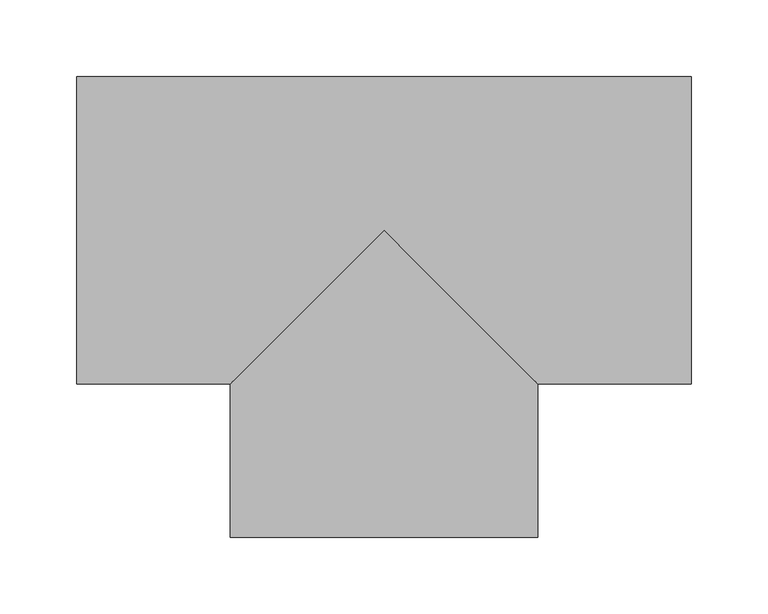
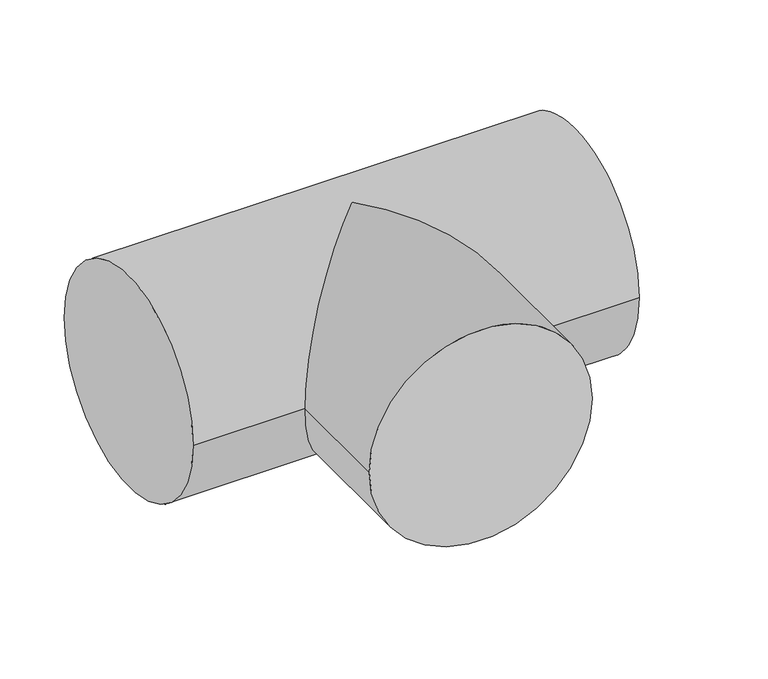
"""IFC4 building model written with IfcOpenShell, lengths in millimetres: duct fitting geometry, magicirc_tee_centric_90_001 : magicirc_tee_centric_90_001."""

from ifc_helpers import new_model, si_unit, frame, origin, place, context, project, spatial, circle_curve, ellipse_curve, source, transform, mapped, element, save
from ifc_brep_helpers import plane_surface, cylinder_surface, advanced_brep


def duct_fitting_c76679f8(model_context):
    return source(origin(), model_context, "Body", "AdvancedBrep", [
        advanced_brep(
        [(-200.0, -100.0, 0.0), (-200.0, 100.0, 0.0), (200.0, -100.0, 0.0), (200.0, 100.0, 0.0), (-100.0, -100.0, 0.0), (0.0, 0.0, 100.0), (100.0, -100.0, 0.0), (0.0, 0.0, -100.0), (-100.0, -200.0, 0.0), (100.0, -200.0, 0.0)],
        [
            (0, 1, circle_curve(frame((-200.0, 0.0, 0.0), z_axis=(-1.0, 0.0, 0.0), x_axis=(0.0, 1.0, 0.0)), 100.0)),
            (1, 0, circle_curve(frame((-200.0, 0.0, 0.0), z_axis=(-1.0, 0.0, 0.0), x_axis=(0.0, 1.0, 0.0)), 100.0)),
            (2, 3, circle_curve(frame((200.0, 0.0, 0.0), z_axis=(1.0, 0.0, 0.0), x_axis=(0.0, 1.0, 0.0)), 100.0)),
            (3, 2, circle_curve(frame((200.0, 0.0, 0.0), z_axis=(1.0, 0.0, 0.0), x_axis=(0.0, 1.0, 0.0)), 100.0)),
            (0, 4),
            (4, 5, ellipse_curve(frame((0.0, 0.0, 0.0), z_axis=(-0.7071067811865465, 0.7071067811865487, 0.0), x_axis=(-0.7071067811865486, -0.7071067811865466, 0.0)), 141.4213562, 100.0)),
            (5, 6, ellipse_curve(frame((0.0, 0.0, 0.0), z_axis=(0.7071067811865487, 0.7071067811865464, 0.0), x_axis=(-0.7071067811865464, 0.7071067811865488, 0.0)), 141.4213562, 100.0)),
            (6, 2),
            (3, 1),
            (6, 7, ellipse_curve(frame((0.0, 0.0, 0.0), z_axis=(0.7071067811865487, 0.7071067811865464, 0.0), x_axis=(-0.7071067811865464, 0.7071067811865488, 0.0)), 141.4213562, 100.0)),
            (7, 4, ellipse_curve(frame((0.0, 0.0, 0.0), z_axis=(-0.7071067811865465, 0.7071067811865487, 0.0), x_axis=(-0.7071067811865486, -0.7071067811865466, 0.0)), 141.4213562, 100.0)),
            (8, 9, circle_curve(frame((0.0, -200.0, 0.0), z_axis=(0.0, -1.0, 0.0), x_axis=(1.0, 0.0, 0.0)), 100.0)),
            (9, 8, circle_curve(frame((0.0, -200.0, 0.0), z_axis=(0.0, -1.0, 0.0), x_axis=(1.0, 0.0, 0.0)), 100.0)),
            (9, 6),
            (4, 8),
        ],
        [
            plane_surface(frame((-200.0, 0.0, 0.0), z_axis=(-1.0, 0.0, 0.0), x_axis=(0.0, 0.0, 1.0))),
            plane_surface(frame((200.0, 0.0, 0.0), z_axis=(1.0, 0.0, 0.0), x_axis=(0.0, 0.0, 1.0))),
            cylinder_surface(frame((-200.0, 0.0, 0.0), z_axis=(-1.0, 0.0, 0.0), x_axis=(0.0, 1.0, 0.0)), 100.0),
            plane_surface(frame((0.0, -200.0, 0.0), z_axis=(0.0, -1.0, 0.0), x_axis=(0.0, 0.0, 1.0))),
            cylinder_surface(frame((0.0, 0.0, 0.0), z_axis=(0.0, 1.0, 0.0), x_axis=(1.0, 0.0, 0.0)), 100.0),
        ],
        [
            (0, [[1, 2]]),
            (1, [[3, 4]]),
            (2, [[-1, 5, 6, 7, 8, -4, 9]]),
            (2, [[-2, -9, -3, -8, 10, 11, -5]]),
            (3, [[12, 13]]),
            (4, [[-13, 14, -7, -6, 15]]),
            (4, [[-12, -15, -11, -10, -14]]),
        ],
    ),
    ])


if __name__ == "__main__":
    model = new_model("IFC4")
    model_context = context("Model", 3, world=origin())
    ifc_project = project(units=[si_unit("LENGTHUNIT", "METRE", prefix="MILLI")], contexts=[model_context])
    site = spatial("IfcSite", under=ifc_project)
    building = spatial("IfcBuilding", under=site)
    placement = place(None, origin())
    duct_fitting_shape = duct_fitting_c76679f8(model_context)
    element("IfcDuctFitting", 1, ObjectType="magicirc_tee_centric_90_001 : magicirc_tee_centric_90_001", at=placement, inside=building, context=model_context, shape_type="MappedRepresentation", body=[
        mapped(duct_fitting_shape, transform((0.0, 0.0, 0.0), x_axis=(1.0, 0.0, 0.0), y_axis=(0.0, 1.0, 0.0), z_axis=(0.0, 0.0, 1.0))),
    ])
    save(model, "model.ifc")
